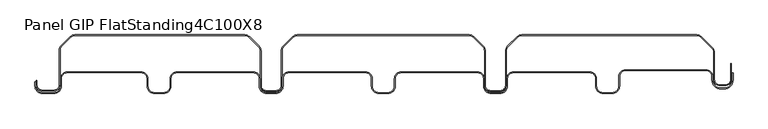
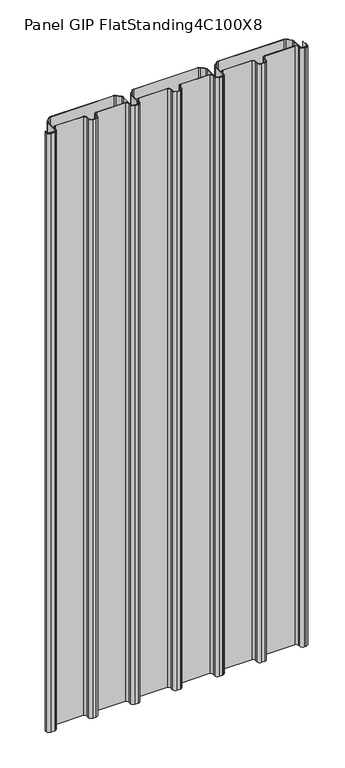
"""IFC4 building model written with IfcOpenShell, lengths in millimetres: plate geometry, Panel_GIP_FlatStanding_4C_100X8_Exiplast : Panel GIP FlatStanding4C100X8."""

from ifc_helpers import new_model, si_unit, point, frame_2d, origin, origin_with_axes, place, context, project, spatial, polyline, circle_curve, trimmed, segment, composite_curve, outline, extrude, source, transform, mapped, element, save


def panel_gip_flatstanding4c100x8_aa8a2414(model_context):
    return source(origin(), model_context, "Body", "SweptSolid", [
        extrude(outline(composite_curve([segment(polyline([(500.4999998, 30.9053767), (500.4999998, 19.95)]), True, "CONTINUOUS"), segment(trimmed(circle_curve(frame_2d((487.2999998, 19.95)), 13.2), [point((500.4999998, 19.95))], [point((487.2999998, 6.75))], False, "CARTESIAN"), True, "CONTINUOUS"), segment(polyline([(487.2999998, 6.75), (482.325804, 6.75)]), True, "CONTINUOUS"), segment(trimmed(circle_curve(frame_2d((482.325804, 19.95)), 13.2), [point((482.325804, 6.75))], [point((469.125804, 19.95))], False, "CARTESIAN"), True, "CONTINUOUS"), segment(polyline([(469.125804, 19.95), (469.125804, 25.325)]), True, "CONTINUOUS"), segment(trimmed(circle_curve(frame_2d((460.325804, 25.325)), 8.8), [point((469.125804, 25.325))], [point((460.325804, 34.125))], True, "CARTESIAN"), True, "CONTINUOUS"), segment(polyline([(460.325804, 34.125), (340.7999998, 34.125)]), True, "CONTINUOUS"), segment(trimmed(circle_curve(frame_2d((340.7999998, 25.325)), 8.8), [point((340.7999998, 34.125))], [point((331.9999998, 25.325))], True, "CARTESIAN"), True, "CONTINUOUS"), segment(polyline([(331.9999998, 25.325), (331.9999998, 11.2)]), True, "CONTINUOUS"), segment(trimmed(circle_curve(frame_2d((320.7999998, 11.2)), 11.2), [point((331.9999998, 11.2))], [point((320.7999998, 0.0))], False, "CARTESIAN"), True, "CONTINUOUS"), segment(polyline([(320.7999998, 0.0), (307.700804, 0.0)]), True, "CONTINUOUS"), segment(trimmed(circle_curve(frame_2d((307.700804, 11.2)), 11.2), [point((307.700804, 0.0))], [point((296.500804, 11.2))], False, "CARTESIAN"), True, "CONTINUOUS"), segment(polyline([(296.500804, 11.2), (296.500804, 22.2)]), True, "CONTINUOUS"), segment(trimmed(circle_curve(frame_2d((287.700804, 22.2)), 8.8), [point((296.500804, 22.2))], [point((287.700804, 31.0))], True, "CARTESIAN"), True, "CONTINUOUS"), segment(polyline([(287.700804, 31.0), (174.2999998, 31.0)]), True, "CONTINUOUS"), segment(trimmed(circle_curve(frame_2d((174.2999998, 22.2)), 8.8), [point((174.2999998, 31.0))], [point((165.4999998, 22.2))], True, "CARTESIAN"), True, "CONTINUOUS"), segment(polyline([(165.4999998, 22.2), (165.4999998, 11.2)]), True, "CONTINUOUS"), segment(trimmed(circle_curve(frame_2d((154.2999998, 11.2)), 11.2), [point((165.4999998, 11.2))], [point((154.2999998, 0.0))], False, "CARTESIAN"), True, "CONTINUOUS"), segment(polyline([(154.2999998, 0.0), (141.200804, 0.0)]), True, "CONTINUOUS"), segment(trimmed(circle_curve(frame_2d((141.200804, 11.2)), 11.2), [point((141.200804, 0.0))], [point((130.000804, 11.2))], False, "CARTESIAN"), True, "CONTINUOUS"), segment(polyline([(130.000804, 11.2), (130.000804, 22.2)]), True, "CONTINUOUS"), segment(trimmed(circle_curve(frame_2d((121.200804, 22.2)), 8.8), [point((130.000804, 22.2))], [point((121.200804, 31.0))], True, "CARTESIAN"), True, "CONTINUOUS"), segment(polyline([(121.200804, 31.0), (7.7999998, 31.0)]), True, "CONTINUOUS"), segment(trimmed(circle_curve(frame_2d((7.7999998, 22.2)), 8.8), [point((7.7999998, 31.0))], [point((-1.0000002, 22.2))], True, "CARTESIAN"), True, "CONTINUOUS"), segment(polyline([(-1.0000002, 22.2), (-1.0000002, 11.2)]), True, "CONTINUOUS"), segment(trimmed(circle_curve(frame_2d((-12.2000002, 11.2)), 11.2), [point((-1.0000002, 11.2))], [point((-12.2000002, 0.0))], False, "CARTESIAN"), True, "CONTINUOUS"), segment(polyline([(-12.2000002, 0.0), (-25.299196, 0.0)]), True, "CONTINUOUS"), segment(trimmed(circle_curve(frame_2d((-25.299196, 11.2)), 11.2), [point((-25.299196, 0.0))], [point((-36.499196, 11.2))], False, "CARTESIAN"), True, "CONTINUOUS"), segment(polyline([(-36.499196, 11.2), (-36.499196, 22.2)]), True, "CONTINUOUS"), segment(trimmed(circle_curve(frame_2d((-45.299196, 22.2)), 8.8), [point((-36.499196, 22.2))], [point((-45.299196, 31.0))], True, "CARTESIAN"), True, "CONTINUOUS"), segment(polyline([(-45.299196, 31.0), (-158.7000002, 31.0)]), True, "CONTINUOUS"), segment(trimmed(circle_curve(frame_2d((-158.7000002, 22.2)), 8.8), [point((-158.7000002, 31.0))], [point((-167.5000002, 22.2))], True, "CARTESIAN"), True, "CONTINUOUS"), segment(polyline([(-167.5000002, 22.2), (-167.5000002, 11.2)]), True, "CONTINUOUS"), segment(trimmed(circle_curve(frame_2d((-178.7000002, 11.2)), 11.2), [point((-167.5000002, 11.2))], [point((-178.7000002, 0.0))], False, "CARTESIAN"), True, "CONTINUOUS"), segment(polyline([(-178.7000002, 0.0), (-191.799196, 0.0)]), True, "CONTINUOUS"), segment(trimmed(circle_curve(frame_2d((-191.799196, 11.2)), 11.2), [point((-191.799196, 0.0))], [point((-202.999196, 11.2))], False, "CARTESIAN"), True, "CONTINUOUS"), segment(polyline([(-202.999196, 11.2), (-202.999196, 22.2)]), True, "CONTINUOUS"), segment(trimmed(circle_curve(frame_2d((-211.799196, 22.2)), 8.8), [point((-202.999196, 22.2))], [point((-211.799196, 31.0))], True, "CARTESIAN"), True, "CONTINUOUS"), segment(polyline([(-211.799196, 31.0), (-325.2000002, 31.0)]), True, "CONTINUOUS"), segment(trimmed(circle_curve(frame_2d((-325.2000002, 22.2)), 8.8), [point((-325.2000002, 31.0))], [point((-334.0000002, 22.2))], True, "CARTESIAN"), True, "CONTINUOUS"), segment(polyline([(-334.0000002, 22.2), (-334.0000002, 11.2)]), True, "CONTINUOUS"), segment(trimmed(circle_curve(frame_2d((-345.2000002, 11.2)), 11.2), [point((-334.0000002, 11.2))], [point((-345.2000002, 0.0))], False, "CARTESIAN"), True, "CONTINUOUS"), segment(polyline([(-345.2000002, 0.0), (-358.299196, 0.0)]), True, "CONTINUOUS"), segment(trimmed(circle_curve(frame_2d((-358.299196, 11.2)), 11.2), [point((-358.299196, 0.0))], [point((-369.499196, 11.2))], False, "CARTESIAN"), True, "CONTINUOUS"), segment(polyline([(-369.499196, 11.2), (-369.499196, 22.2)]), True, "CONTINUOUS"), segment(trimmed(circle_curve(frame_2d((-378.299196, 22.2)), 8.8), [point((-369.499196, 22.2))], [point((-378.299196, 31.0))], True, "CARTESIAN"), True, "CONTINUOUS"), segment(polyline([(-378.299196, 31.0), (-487.9500002, 31.0)]), True, "CONTINUOUS"), segment(trimmed(circle_curve(frame_2d((-487.9500002, 22.2)), 8.8), [point((-487.9500002, 31.0))], [point((-496.7500002, 22.2))], True, "CARTESIAN"), True, "CONTINUOUS"), segment(polyline([(-496.7500002, 22.2), (-496.7500002, 11.2)]), True, "CONTINUOUS"), segment(trimmed(circle_curve(frame_2d((-507.9500002, 11.2)), 11.2), [point((-496.7500002, 11.2))], [point((-507.9500002, 0.0))], False, "CARTESIAN"), True, "CONTINUOUS"), segment(polyline([(-507.9500002, 0.0), (-524.799196, 0.0)]), True, "CONTINUOUS"), segment(trimmed(circle_curve(frame_2d((-524.799196, 11.2)), 11.2), [point((-524.799196, 0.0))], [point((-535.999196, 11.2))], False, "CARTESIAN"), True, "CONTINUOUS"), segment(polyline([(-535.999196, 11.2), (-535.999196, 17.1245542), (-534.799196, 17.1245542), (-534.799196, 11.2)]), True, "CONTINUOUS"), segment(trimmed(circle_curve(frame_2d((-524.799196, 11.2)), 10.0), [point((-534.799196, 11.2))], [point((-524.799196, 1.2))], True, "CARTESIAN"), True, "CONTINUOUS"), segment(polyline([(-524.799196, 1.2), (-507.9500002, 1.2)]), True, "CONTINUOUS"), segment(trimmed(circle_curve(frame_2d((-507.9500002, 11.2)), 10.0), [point((-507.9500002, 1.2))], [point((-497.9500002, 11.2))], True, "CARTESIAN"), True, "CONTINUOUS"), segment(polyline([(-497.9500002, 11.2), (-497.9500002, 22.2)]), True, "CONTINUOUS"), segment(trimmed(circle_curve(frame_2d((-487.9500002, 22.2)), 10.0), [point((-497.9500002, 22.2))], [point((-487.9500002, 32.2))], False, "CARTESIAN"), True, "CONTINUOUS"), segment(polyline([(-487.9500002, 32.2), (-378.299196, 32.2)]), True, "CONTINUOUS"), segment(trimmed(circle_curve(frame_2d((-378.299196, 22.2)), 10.0), [point((-378.299196, 32.2))], [point((-368.299196, 22.2))], False, "CARTESIAN"), True, "CONTINUOUS"), segment(polyline([(-368.299196, 22.2), (-368.299196, 11.2)]), True, "CONTINUOUS"), segment(trimmed(circle_curve(frame_2d((-358.299196, 11.2)), 10.0), [point((-368.299196, 11.2))], [point((-358.299196, 1.2))], True, "CARTESIAN"), True, "CONTINUOUS"), segment(polyline([(-358.299196, 1.2), (-345.2000002, 1.2)]), True, "CONTINUOUS"), segment(trimmed(circle_curve(frame_2d((-345.2000002, 11.2)), 10.0), [point((-345.2000002, 1.2))], [point((-335.2000002, 11.2))], True, "CARTESIAN"), True, "CONTINUOUS"), segment(polyline([(-335.2000002, 11.2), (-335.2000002, 22.2)]), True, "CONTINUOUS"), segment(trimmed(circle_curve(frame_2d((-325.2000002, 22.2)), 10.0), [point((-335.2000002, 22.2))], [point((-325.2000002, 32.2))], False, "CARTESIAN"), True, "CONTINUOUS"), segment(polyline([(-325.2000002, 32.2), (-211.799196, 32.2)]), True, "CONTINUOUS"), segment(trimmed(circle_curve(frame_2d((-211.799196, 22.2)), 10.0), [point((-211.799196, 32.2))], [point((-201.799196, 22.2))], False, "CARTESIAN"), True, "CONTINUOUS"), segment(polyline([(-201.799196, 22.2), (-201.799196, 11.2)]), True, "CONTINUOUS"), segment(trimmed(circle_curve(frame_2d((-191.799196, 11.2)), 10.0), [point((-201.799196, 11.2))], [point((-191.799196, 1.2))], True, "CARTESIAN"), True, "CONTINUOUS"), segment(polyline([(-191.799196, 1.2), (-178.7000002, 1.2)]), True, "CONTINUOUS"), segment(trimmed(circle_curve(frame_2d((-178.7000002, 11.2)), 10.0), [point((-178.7000002, 1.2))], [point((-168.7000002, 11.2))], True, "CARTESIAN"), True, "CONTINUOUS"), segment(polyline([(-168.7000002, 11.2), (-168.7000002, 22.2)]), True, "CONTINUOUS"), segment(trimmed(circle_curve(frame_2d((-158.7000002, 22.2)), 10.0), [point((-168.7000002, 22.2))], [point((-158.7000002, 32.2))], False, "CARTESIAN"), True, "CONTINUOUS"), segment(polyline([(-158.7000002, 32.2), (-45.299196, 32.2)]), True, "CONTINUOUS"), segment(trimmed(circle_curve(frame_2d((-45.299196, 22.2)), 10.0), [point((-45.299196, 32.2))], [point((-35.299196, 22.2))], False, "CARTESIAN"), True, "CONTINUOUS"), segment(polyline([(-35.299196, 22.2), (-35.299196, 11.2)]), True, "CONTINUOUS"), segment(trimmed(circle_curve(frame_2d((-25.299196, 11.2)), 10.0), [point((-35.299196, 11.2))], [point((-25.299196, 1.2))], True, "CARTESIAN"), True, "CONTINUOUS"), segment(polyline([(-25.299196, 1.2), (-12.2000002, 1.2)]), True, "CONTINUOUS"), segment(trimmed(circle_curve(frame_2d((-12.2000002, 11.2)), 10.0), [point((-12.2000002, 1.2))], [point((-2.2000002, 11.2))], True, "CARTESIAN"), True, "CONTINUOUS"), segment(polyline([(-2.2000002, 11.2), (-2.2000002, 22.2)]), True, "CONTINUOUS"), segment(trimmed(circle_curve(frame_2d((7.7999998, 22.2)), 10.0), [point((-2.2000002, 22.2))], [point((7.7999998, 32.2))], False, "CARTESIAN"), True, "CONTINUOUS"), segment(polyline([(7.7999998, 32.2), (121.200804, 32.2)]), True, "CONTINUOUS"), segment(trimmed(circle_curve(frame_2d((121.200804, 22.2)), 10.0), [point((121.200804, 32.2))], [point((131.200804, 22.2))], False, "CARTESIAN"), True, "CONTINUOUS"), segment(polyline([(131.200804, 22.2), (131.200804, 11.2)]), True, "CONTINUOUS"), segment(trimmed(circle_curve(frame_2d((141.200804, 11.2)), 10.0), [point((131.200804, 11.2))], [point((141.200804, 1.2))], True, "CARTESIAN"), True, "CONTINUOUS"), segment(polyline([(141.200804, 1.2), (154.2999998, 1.2)]), True, "CONTINUOUS"), segment(trimmed(circle_curve(frame_2d((154.2999998, 11.2)), 10.0), [point((154.2999998, 1.2))], [point((164.2999998, 11.2))], True, "CARTESIAN"), True, "CONTINUOUS"), segment(polyline([(164.2999998, 11.2), (164.2999998, 22.2)]), True, "CONTINUOUS"), segment(trimmed(circle_curve(frame_2d((174.2999998, 22.2)), 10.0), [point((164.2999998, 22.2))], [point((174.2999998, 32.2))], False, "CARTESIAN"), True, "CONTINUOUS"), segment(polyline([(174.2999998, 32.2), (287.700804, 32.2)]), True, "CONTINUOUS"), segment(trimmed(circle_curve(frame_2d((287.700804, 22.2)), 10.0), [point((287.700804, 32.2))], [point((297.700804, 22.2))], False, "CARTESIAN"), True, "CONTINUOUS"), segment(polyline([(297.700804, 22.2), (297.700804, 11.2)]), True, "CONTINUOUS"), segment(trimmed(circle_curve(frame_2d((307.700804, 11.2)), 10.0), [point((297.700804, 11.2))], [point((307.700804, 1.2))], True, "CARTESIAN"), True, "CONTINUOUS"), segment(polyline([(307.700804, 1.2), (320.7999998, 1.2)]), True, "CONTINUOUS"), segment(trimmed(circle_curve(frame_2d((320.7999998, 11.2)), 10.0), [point((320.7999998, 1.2))], [point((330.7999998, 11.2))], True, "CARTESIAN"), True, "CONTINUOUS"), segment(polyline([(330.7999998, 11.2), (330.7999998, 25.325)]), True, "CONTINUOUS"), segment(trimmed(circle_curve(frame_2d((340.7999998, 25.325)), 10.0), [point((330.7999998, 25.325))], [point((340.7999998, 35.325))], False, "CARTESIAN"), True, "CONTINUOUS"), segment(polyline([(340.7999998, 35.325), (460.325804, 35.325)]), True, "CONTINUOUS"), segment(trimmed(circle_curve(frame_2d((460.325804, 25.325)), 10.0), [point((460.325804, 35.325))], [point((470.325804, 25.325))], False, "CARTESIAN"), True, "CONTINUOUS"), segment(polyline([(470.325804, 25.325), (470.325804, 19.95)]), True, "CONTINUOUS"), segment(trimmed(circle_curve(frame_2d((482.325804, 19.95)), 12.0), [point((470.325804, 19.95))], [point((482.325804, 7.95))], True, "CARTESIAN"), True, "CONTINUOUS"), segment(polyline([(482.325804, 7.95), (487.2999998, 7.95)]), True, "CONTINUOUS"), segment(trimmed(circle_curve(frame_2d((487.2999998, 19.95)), 12.0), [point((487.2999998, 7.95))], [point((499.2999998, 19.95))], True, "CARTESIAN"), True, "CONTINUOUS"), segment(polyline([(499.2999998, 19.95), (499.2999998, 30.9053767), (500.4999998, 30.9053767)]), True, "CONTINUOUS")], self_intersect=False)), origin_with_axes(), (0.0, 0.0, 1.0), 2500.0),
        extrude(outline(composite_curve([segment(polyline([(498.0781564, 44.8512381), (498.0781564, 20.9475016)]), True, "CONTINUOUS"), segment(trimmed(circle_curve(frame_2d((488.8781564, 20.9475016)), 9.2), [point((498.0781564, 20.9475016))], [point((488.8781564, 11.7475016))], False, "CARTESIAN"), True, "CONTINUOUS"), segment(polyline([(488.8781564, 11.7475016), (480.8564673, 11.7475016)]), True, "CONTINUOUS"), segment(trimmed(circle_curve(frame_2d((480.8564673, 20.9475016)), 9.2), [point((480.8564673, 11.7475016))], [point((471.6564673, 20.9475016))], False, "CARTESIAN"), True, "CONTINUOUS"), segment(polyline([(471.6564673, 20.9475016), (471.6564673, 61.143427)]), True, "CONTINUOUS"), segment(trimmed(circle_curve(frame_2d((462.8564673, 61.143427)), 8.8), [point((471.6564673, 61.143427))], [point((469.0790069, 67.3659667))], True, "CARTESIAN"), True, "CONTINUOUS"), segment(polyline([(469.0790069, 67.3659667), (452.7493713, 83.6956023)]), True, "CONTINUOUS"), segment(trimmed(circle_curve(frame_2d((446.5268316, 77.4730627)), 8.8), [point((452.7493713, 83.6956023))], [point((446.5268316, 86.2730627))], True, "CARTESIAN"), True, "CONTINUOUS"), segment(polyline([(446.5268316, 86.2730627), (186.770292, 86.2730627)]), True, "CONTINUOUS"), segment(trimmed(circle_curve(frame_2d((186.770292, 77.4730627)), 8.8), [point((186.770292, 86.2730627))], [point((180.5477523, 83.6956023))], True, "CARTESIAN"), True, "CONTINUOUS"), segment(polyline([(180.5477523, 83.6956023), (166.4056167, 69.5534667)]), True, "CONTINUOUS"), segment(trimmed(circle_curve(frame_2d((172.6281564, 63.330927)), 8.8), [point((166.4056167, 69.5534667))], [point((163.8281564, 63.330927))], True, "CARTESIAN"), True, "CONTINUOUS"), segment(polyline([(163.8281564, 63.330927), (163.8281564, 12.1975016)]), True, "CONTINUOUS"), segment(trimmed(circle_curve(frame_2d((154.6281564, 12.1975016)), 9.2), [point((163.8281564, 12.1975016))], [point((154.6281564, 2.9975016))], False, "CARTESIAN"), True, "CONTINUOUS"), segment(polyline([(154.6281564, 2.9975016), (140.6689673, 2.9975016)]), True, "CONTINUOUS"), segment(trimmed(circle_curve(frame_2d((140.6689673, 12.1975016)), 9.2), [point((140.6689673, 2.9975016))], [point((131.4689673, 12.1975016))], False, "CARTESIAN"), True, "CONTINUOUS"), segment(polyline([(131.4689673, 12.1975016), (131.4689673, 63.330927)]), True, "CONTINUOUS"), segment(trimmed(circle_curve(frame_2d((122.6689673, 63.330927)), 8.8), [point((131.4689673, 63.330927))], [point((128.8915069, 69.5534667))], True, "CARTESIAN"), True, "CONTINUOUS"), segment(polyline([(128.8915069, 69.5534667), (114.7493713, 83.6956023)]), True, "CONTINUOUS"), segment(trimmed(circle_curve(frame_2d((108.5268316, 77.4730627)), 8.8), [point((114.7493713, 83.6956023))], [point((108.5268316, 86.2730627))], True, "CARTESIAN"), True, "CONTINUOUS"), segment(polyline([(108.5268316, 86.2730627), (-146.229708, 86.2730627)]), True, "CONTINUOUS"), segment(trimmed(circle_curve(frame_2d((-146.229708, 77.4730627)), 8.8), [point((-146.229708, 86.2730627))], [point((-152.4522477, 83.6956023))], True, "CARTESIAN"), True, "CONTINUOUS"), segment(polyline([(-152.4522477, 83.6956023), (-166.5943833, 69.5534667)]), True, "CONTINUOUS"), segment(trimmed(circle_curve(frame_2d((-160.3718436, 63.330927)), 8.8), [point((-166.5943833, 69.5534667))], [point((-169.1718436, 63.330927))], True, "CARTESIAN"), True, "CONTINUOUS"), segment(polyline([(-169.1718436, 63.330927), (-169.1718436, 12.1975016)]), True, "CONTINUOUS"), segment(trimmed(circle_curve(frame_2d((-178.3718436, 12.1975016)), 9.2), [point((-169.1718436, 12.1975016))], [point((-178.3718436, 2.9975016))], False, "CARTESIAN"), True, "CONTINUOUS"), segment(polyline([(-178.3718436, 2.9975016), (-192.3310327, 2.9975016)]), True, "CONTINUOUS"), segment(trimmed(circle_curve(frame_2d((-192.3310327, 12.1975016)), 9.2), [point((-192.3310327, 2.9975016))], [point((-201.5310327, 12.1975016))], False, "CARTESIAN"), True, "CONTINUOUS"), segment(polyline([(-201.5310327, 12.1975016), (-201.5310327, 63.330927)]), True, "CONTINUOUS"), segment(trimmed(circle_curve(frame_2d((-210.3310327, 63.330927)), 8.8), [point((-201.5310327, 63.330927))], [point((-204.1084931, 69.5534667))], True, "CARTESIAN"), True, "CONTINUOUS"), segment(polyline([(-204.1084931, 69.5534667), (-218.2506287, 83.6956023)]), True, "CONTINUOUS"), segment(trimmed(circle_curve(frame_2d((-224.4731684, 77.4730627)), 8.8), [point((-218.2506287, 83.6956023))], [point((-224.4731684, 86.2730627))], True, "CARTESIAN"), True, "CONTINUOUS"), segment(polyline([(-224.4731684, 86.2730627), (-476.7111531, 86.2730627)]), True, "CONTINUOUS"), segment(trimmed(circle_curve(frame_2d((-476.7111531, 77.4730627)), 8.8), [point((-476.7111531, 86.2730627))], [point((-482.9336928, 83.6956023))], True, "CARTESIAN"), True, "CONTINUOUS"), segment(polyline([(-482.9336928, 83.6956023), (-496.1383284, 70.4909667)]), True, "CONTINUOUS"), segment(trimmed(circle_curve(frame_2d((-489.9157887, 64.268427)), 8.8), [point((-496.1383284, 70.4909667))], [point((-498.7157887, 64.268427))], True, "CARTESIAN"), True, "CONTINUOUS"), segment(polyline([(-498.7157887, 64.268427), (-498.7157887, 12.8934417)]), True, "CONTINUOUS"), segment(trimmed(circle_curve(frame_2d((-507.9157887, 12.8934417)), 9.2), [point((-498.7157887, 12.8934417))], [point((-507.9157887, 3.6934417))], False, "CARTESIAN"), True, "CONTINUOUS"), segment(polyline([(-507.9157887, 3.6934417), (-524.9344939, 3.6934417)]), True, "CONTINUOUS"), segment(trimmed(circle_curve(frame_2d((-524.9344939, 12.8934417)), 9.2), [point((-524.9344939, 3.6934417))], [point((-534.1344939, 12.8934417))], False, "CARTESIAN"), True, "CONTINUOUS"), segment(polyline([(-534.1344939, 12.8934417), (-534.1344939, 19.7659281), (-532.9344939, 19.7659281), (-532.9344939, 12.8934417)]), True, "CONTINUOUS"), segment(trimmed(circle_curve(frame_2d((-524.9344939, 12.8934417)), 8.0), [point((-532.9344939, 12.8934417))], [point((-524.9344939, 4.8934417))], True, "CARTESIAN"), True, "CONTINUOUS"), segment(polyline([(-524.9344939, 4.8934417), (-507.9157887, 4.8934417)]), True, "CONTINUOUS"), segment(trimmed(circle_curve(frame_2d((-507.9157887, 12.8934417)), 8.0), [point((-507.9157887, 4.8934417))], [point((-499.9157887, 12.8934417))], True, "CARTESIAN"), True, "CONTINUOUS"), segment(polyline([(-499.9157887, 12.8934417), (-499.9157887, 64.268427)]), True, "CONTINUOUS"), segment(trimmed(circle_curve(frame_2d((-489.9157887, 64.268427)), 10.0), [point((-499.9157887, 64.268427))], [point((-496.9868565, 71.3394949))], False, "CARTESIAN"), True, "CONTINUOUS"), segment(polyline([(-496.9868565, 71.3394949), (-483.7822209, 84.5441305)]), True, "CONTINUOUS"), segment(trimmed(circle_curve(frame_2d((-476.7111531, 77.4730627)), 10.0), [point((-483.7822209, 84.5441305))], [point((-476.7111531, 87.4730627))], False, "CARTESIAN"), True, "CONTINUOUS"), segment(polyline([(-476.7111531, 87.4730627), (-224.4731684, 87.4730627)]), True, "CONTINUOUS"), segment(trimmed(circle_curve(frame_2d((-224.4731684, 77.4730627)), 10.0), [point((-224.4731684, 87.4730627))], [point((-217.4021005, 84.5441305))], False, "CARTESIAN"), True, "CONTINUOUS"), segment(polyline([(-217.4021005, 84.5441305), (-203.2599649, 70.4019949)]), True, "CONTINUOUS"), segment(trimmed(circle_curve(frame_2d((-210.3310327, 63.330927)), 10.0), [point((-203.2599649, 70.4019949))], [point((-200.3310327, 63.330927))], False, "CARTESIAN"), True, "CONTINUOUS"), segment(polyline([(-200.3310327, 63.330927), (-200.3310327, 12.1975016)]), True, "CONTINUOUS"), segment(trimmed(circle_curve(frame_2d((-192.3310327, 12.1975016)), 8.0), [point((-200.3310327, 12.1975016))], [point((-192.3310327, 4.1975016))], True, "CARTESIAN"), True, "CONTINUOUS"), segment(polyline([(-192.3310327, 4.1975016), (-178.3718436, 4.1975016)]), True, "CONTINUOUS"), segment(trimmed(circle_curve(frame_2d((-178.3718436, 12.1975016)), 8.0), [point((-178.3718436, 4.1975016))], [point((-170.3718436, 12.1975016))], True, "CARTESIAN"), True, "CONTINUOUS"), segment(polyline([(-170.3718436, 12.1975016), (-170.3718436, 63.330927)]), True, "CONTINUOUS"), segment(trimmed(circle_curve(frame_2d((-160.3718436, 63.330927)), 10.0), [point((-170.3718436, 63.330927))], [point((-167.4429114, 70.4019949))], False, "CARTESIAN"), True, "CONTINUOUS"), segment(polyline([(-167.4429114, 70.4019949), (-153.3007758, 84.5441305)]), True, "CONTINUOUS"), segment(trimmed(circle_curve(frame_2d((-146.229708, 77.4730627)), 10.0), [point((-153.3007758, 84.5441305))], [point((-146.229708, 87.4730627))], False, "CARTESIAN"), True, "CONTINUOUS"), segment(polyline([(-146.229708, 87.4730627), (108.5268316, 87.4730627)]), True, "CONTINUOUS"), segment(trimmed(circle_curve(frame_2d((108.5268316, 77.4730627)), 10.0), [point((108.5268316, 87.4730627))], [point((115.5978995, 84.5441305))], False, "CARTESIAN"), True, "CONTINUOUS"), segment(polyline([(115.5978995, 84.5441305), (129.7400351, 70.4019949)]), True, "CONTINUOUS"), segment(trimmed(circle_curve(frame_2d((122.6689673, 63.330927)), 10.0), [point((129.7400351, 70.4019949))], [point((132.6689673, 63.330927))], False, "CARTESIAN"), True, "CONTINUOUS"), segment(polyline([(132.6689673, 63.330927), (132.6689673, 12.1975016)]), True, "CONTINUOUS"), segment(trimmed(circle_curve(frame_2d((140.6689673, 12.1975016)), 8.0), [point((132.6689673, 12.1975016))], [point((140.6689673, 4.1975016))], True, "CARTESIAN"), True, "CONTINUOUS"), segment(polyline([(140.6689673, 4.1975016), (154.6281564, 4.1975016)]), True, "CONTINUOUS"), segment(trimmed(circle_curve(frame_2d((154.6281564, 12.1975016)), 8.0), [point((154.6281564, 4.1975016))], [point((162.6281564, 12.1975016))], True, "CARTESIAN"), True, "CONTINUOUS"), segment(polyline([(162.6281564, 12.1975016), (162.6281564, 63.330927)]), True, "CONTINUOUS"), segment(trimmed(circle_curve(frame_2d((172.6281564, 63.330927)), 10.0), [point((162.6281564, 63.330927))], [point((165.5570886, 70.4019949))], False, "CARTESIAN"), True, "CONTINUOUS"), segment(polyline([(165.5570886, 70.4019949), (179.6992242, 84.5441305)]), True, "CONTINUOUS"), segment(trimmed(circle_curve(frame_2d((186.770292, 77.4730627)), 10.0), [point((179.6992242, 84.5441305))], [point((186.770292, 87.4730627))], False, "CARTESIAN"), True, "CONTINUOUS"), segment(polyline([(186.770292, 87.4730627), (446.5268316, 87.4730627)]), True, "CONTINUOUS"), segment(trimmed(circle_curve(frame_2d((446.5268316, 77.4730627)), 10.0), [point((446.5268316, 87.4730627))], [point((453.5978995, 84.5441305))], False, "CARTESIAN"), True, "CONTINUOUS"), segment(polyline([(453.5978995, 84.5441305), (469.9275351, 68.2144949)]), True, "CONTINUOUS"), segment(trimmed(circle_curve(frame_2d((462.8564673, 61.143427)), 10.0), [point((469.9275351, 68.2144949))], [point((472.8564673, 61.143427))], False, "CARTESIAN"), True, "CONTINUOUS"), segment(polyline([(472.8564673, 61.143427), (472.8564673, 20.9475016)]), True, "CONTINUOUS"), segment(trimmed(circle_curve(frame_2d((480.8564673, 20.9475016)), 8.0), [point((472.8564673, 20.9475016))], [point((480.8564673, 12.9475016))], True, "CARTESIAN"), True, "CONTINUOUS"), segment(polyline([(480.8564673, 12.9475016), (488.8781564, 12.9475016)]), True, "CONTINUOUS"), segment(trimmed(circle_curve(frame_2d((488.8781564, 20.9475016)), 8.0), [point((488.8781564, 12.9475016))], [point((496.8781564, 20.9475016))], True, "CARTESIAN"), True, "CONTINUOUS"), segment(polyline([(496.8781564, 20.9475016), (496.8781564, 44.8512381), (498.0781564, 44.8512381)]), True, "CONTINUOUS")], self_intersect=False)), origin_with_axes(), (0.0, 0.0, 1.0), 2500.0),
    ])


if __name__ == "__main__":
    model = new_model("IFC4")
    model_context = context("Model", 3, world=origin())
    ifc_project = project(units=[si_unit("LENGTHUNIT", "METRE", prefix="MILLI")], contexts=[model_context])
    site = spatial("IfcSite", under=ifc_project)
    building = spatial("IfcBuilding", under=site)
    placement = place(None, origin())
    panel_gip_flatstanding4c100x8_shape = panel_gip_flatstanding4c100x8_aa8a2414(model_context)
    element("IfcPlate", 1, ObjectType="Panel_GIP_FlatStanding_4C_100X8_Exiplast : Panel GIP FlatStanding4C100X8", at=placement, inside=building, context=model_context, shape_type="MappedRepresentation", body=[
        mapped(panel_gip_flatstanding4c100x8_shape, transform((0.0, 0.0, 0.0), x_axis=(1.0, 0.0, 0.0), y_axis=(0.0, 1.0, 0.0), z_axis=(0.0, 0.0, 1.0))),
    ])
    save(model, "model.ifc")
